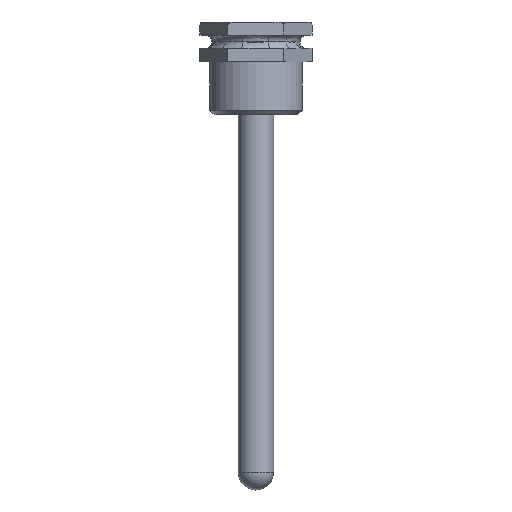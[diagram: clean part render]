
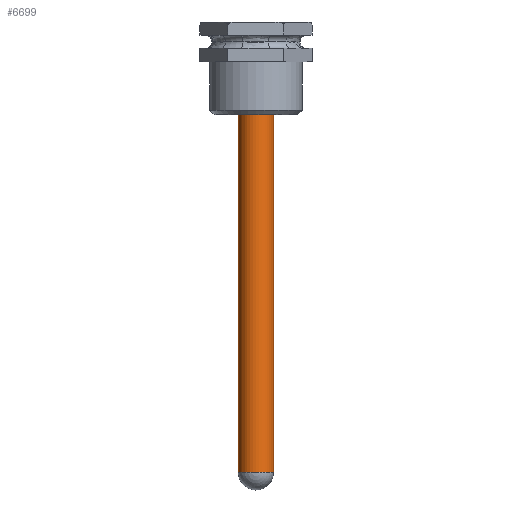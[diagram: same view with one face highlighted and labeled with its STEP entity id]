
A CAD part, front view. The second image highlights one B-rep face of the part: STEP entity #6699.
In plain terms, the highlighted cylindrical face has radius 4 mm (diameter 8 mm), a partial arc.
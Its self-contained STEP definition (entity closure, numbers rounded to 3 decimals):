
#385 = AXIS2_PLACEMENT_3D ( 'NONE', #2722, #1604, #5000 ) ;
#642 = EDGE_LOOP ( 'NONE', ( #4850, #1600, #2471, #5007 ) ) ;
#661 = EDGE_CURVE ( 'NONE', #1242, #3071, #6142, .T. ) ;
#781 = CARTESIAN_POINT ( 'NONE',  ( 0., 0., 85. ) ) ;
#784 = CARTESIAN_POINT ( 'NONE',  ( 0., 0., 97. ) ) ;
#930 = DIRECTION ( 'NONE',  ( -1., 0., 0. ) ) ;
#972 = CARTESIAN_POINT ( 'NONE',  ( 4., 0., 4. ) ) ;
#1047 = AXIS2_PLACEMENT_3D ( 'NONE', #781, #2385, #4642 ) ;
#1206 = EDGE_CURVE ( 'NONE', #1242, #1351, #4245, .T. ) ;
#1242 = VERTEX_POINT ( 'NONE', #3565 ) ;
#1310 = FACE_OUTER_BOUND ( 'NONE', #642, .T. ) ;
#1351 = VERTEX_POINT ( 'NONE', #3957 ) ;
#1600 = ORIENTED_EDGE ( 'NONE', *, *, #1206, .F. ) ;
#1604 = DIRECTION ( 'NONE',  ( 0., 0., 1. ) ) ;
#1660 = EDGE_CURVE ( 'NONE', #1351, #4741, #2472, .T. ) ;
#2385 = DIRECTION ( 'NONE',  ( 0., 0., 1. ) ) ;
#2471 = ORIENTED_EDGE ( 'NONE', *, *, #661, .T. ) ;
#2472 = LINE ( 'NONE', #6865, #6973 ) ;
#2650 = CIRCLE ( 'NONE', #385, 4. ) ;
#2722 = CARTESIAN_POINT ( 'NONE',  ( 0., 0., 4. ) ) ;
#3071 = VERTEX_POINT ( 'NONE', #6150 ) ;
#3329 = CARTESIAN_POINT ( 'NONE',  ( -4., 0., 97. ) ) ;
#3436 = DIRECTION ( 'NONE',  ( 0., 0., -1. ) ) ;
#3565 = CARTESIAN_POINT ( 'NONE',  ( -4., 0., 85. ) ) ;
#3957 = CARTESIAN_POINT ( 'NONE',  ( 4., 0., 85. ) ) ;
#4150 = DIRECTION ( 'NONE',  ( 0., 0., -1. ) ) ;
#4245 = CIRCLE ( 'NONE', #1047, 4. ) ;
#4338 = AXIS2_PLACEMENT_3D ( 'NONE', #784, #4150, #930 ) ;
#4516 = DIRECTION ( 'NONE',  ( 0., 0., -1. ) ) ;
#4642 = DIRECTION ( 'NONE',  ( 1., 0., 0. ) ) ;
#4741 = VERTEX_POINT ( 'NONE', #972 ) ;
#4850 = ORIENTED_EDGE ( 'NONE', *, *, #1660, .F. ) ;
#5000 = DIRECTION ( 'NONE',  ( -1., 0., 0. ) ) ;
#5007 = ORIENTED_EDGE ( 'NONE', *, *, #6497, .T. ) ;
#5689 = CYLINDRICAL_SURFACE ( 'NONE', #4338, 4. ) ;
#6142 = LINE ( 'NONE', #3329, #6250 ) ;
#6150 = CARTESIAN_POINT ( 'NONE',  ( -4., 0., 4. ) ) ;
#6250 = VECTOR ( 'NONE', #4516, 1000. ) ;
#6497 = EDGE_CURVE ( 'NONE', #3071, #4741, #2650, .T. ) ;
#6699 = ADVANCED_FACE ( 'NONE', ( #1310 ), #5689, .T. ) ;
#6865 = CARTESIAN_POINT ( 'NONE',  ( 4., 0., 97. ) ) ;
#6973 = VECTOR ( 'NONE', #3436, 1000. ) ;
